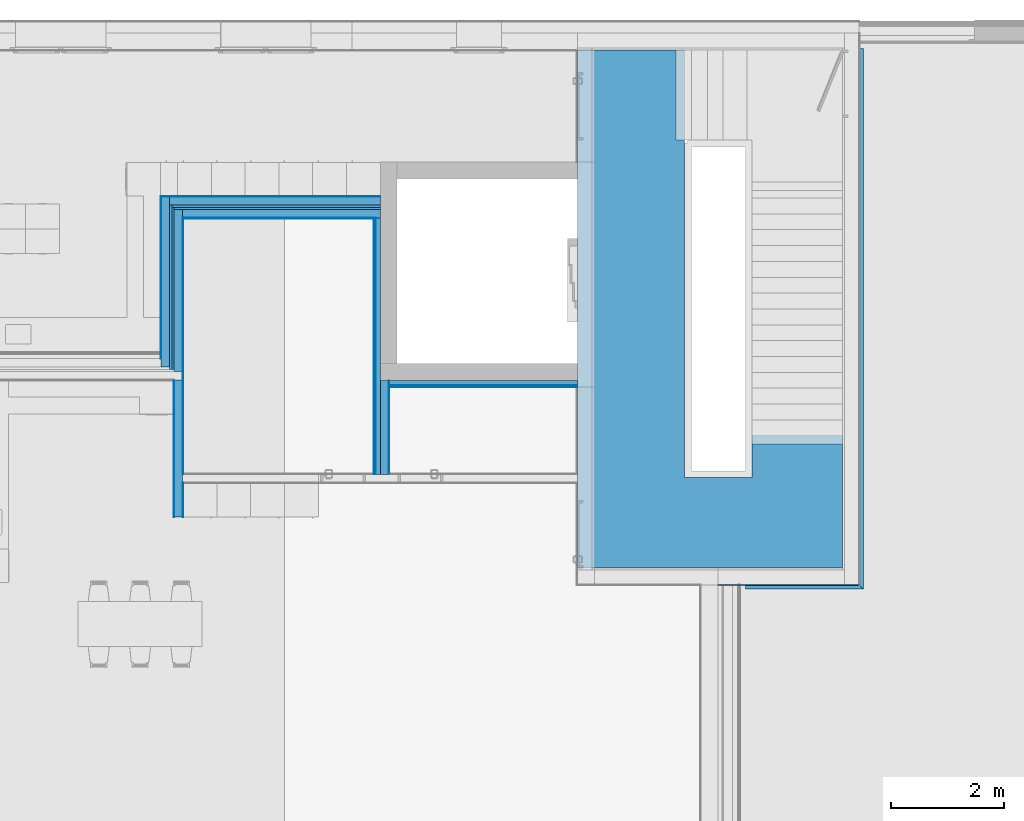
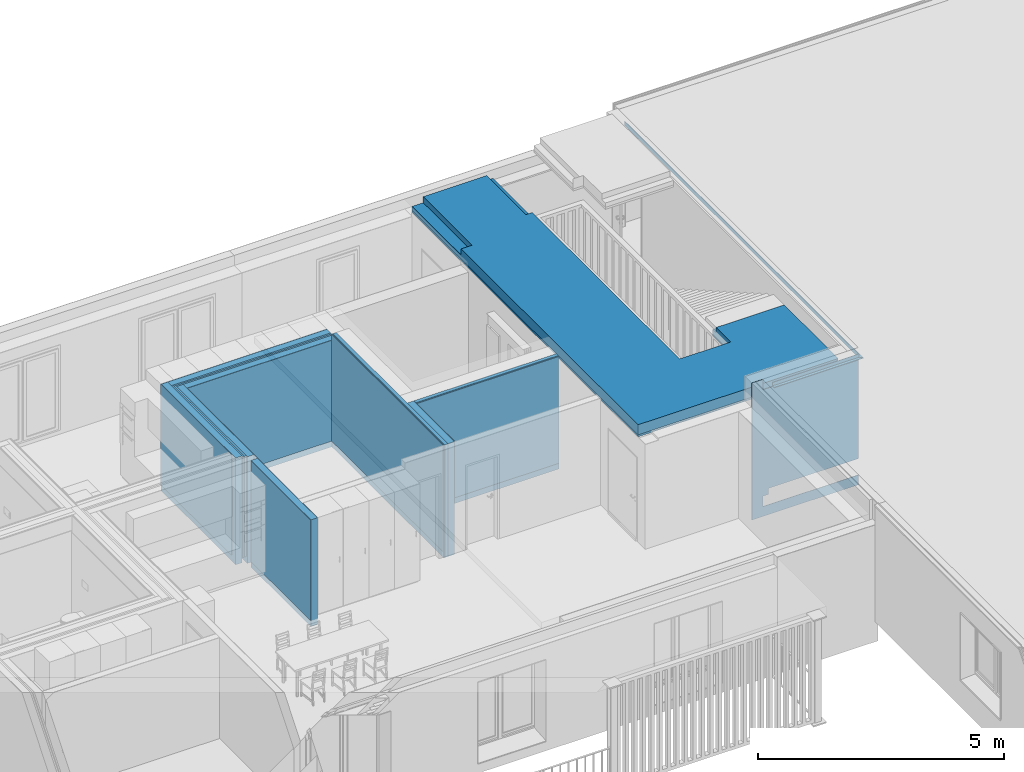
# One storey, part 14 of 34: 28 building element parts, 2 discrete accessories, 10 elements without a shape of their own.
"""IFC4 building model written with IfcOpenShell, lengths in millimetres."""

from ifc_helpers import new_model, entity, si_unit, converted_unit, derived_unit, direction, frame, origin_with_axes, place, context, subcontext, project, spatial, polygons, material, constituent, constituent_set, type_object, element, aggregate, save


model = new_model("IFC4")

# Units and contexts
model_context = context("Model", 3, precision=0.01, world=origin_with_axes(), true_north=direction((0.0, 1.0)))
body_context = subcontext(model_context, "Body", "Model", "MODEL_VIEW")
ifc_project = project(units=[si_unit("LENGTHUNIT", "METRE", prefix="MILLI"), si_unit("AREAUNIT", "SQUARE_METRE"), si_unit("VOLUMEUNIT", "CUBIC_METRE"), converted_unit("PLANEANGLEUNIT", "DEGREE", entity("IfcPlaneAngleMeasure", 0.0174532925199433), si_unit("PLANEANGLEUNIT", "RADIAN"), dimensions=[0, 0, 0, 0, 0, 0, 0]), converted_unit("TIMEUNIT", "Year", entity("IfcTimeMeasure", 31557600.0), si_unit("TIMEUNIT", "SECOND"), dimensions=[0, 0, 1, 0, 0, 0, 0]), si_unit("MASSUNIT", "GRAM", prefix="KILO"), si_unit("THERMODYNAMICTEMPERATUREUNIT", "DEGREE_CELSIUS"), si_unit("LUMINOUSINTENSITYUNIT", "LUMEN"), si_unit("ENERGYUNIT", "JOULE", prefix="MEGA"), derived_unit("THERMALCONDUCTANCEUNIT", [(si_unit("POWERUNIT", "WATT"), 1), (si_unit("LENGTHUNIT", "METRE"), -1), (si_unit("THERMODYNAMICTEMPERATUREUNIT", "KELVIN"), -1)]), derived_unit("SPECIFICHEATCAPACITYUNIT", [(si_unit("ENERGYUNIT", "JOULE"), 1), (si_unit("MASSUNIT", "GRAM", prefix="KILO"), -1), (si_unit("THERMODYNAMICTEMPERATUREUNIT", "KELVIN"), -1)]), derived_unit("MASSDENSITYUNIT", [(si_unit("MASSUNIT", "GRAM", prefix="KILO"), 1), (si_unit("VOLUMEUNIT", "CUBIC_METRE"), -1)])], contexts=[model_context])

# Site, building, storey
site_placement = place(None, origin_with_axes())
site = spatial("IfcSite", under=ifc_project, at=site_placement, Name="Gelände", CompositionType="ELEMENT")
building_placement = place(site_placement, origin_with_axes())
building = spatial("IfcBuilding", under=site, at=building_placement, Name="Gebäude", CompositionType="ELEMENT")
storey_placement = place(building_placement, frame((0.0, 0.0, 2900.0), z_axis=(0.0, 0.0, 1.0), x_axis=(1.0, 0.0, 0.0)))
storey = spatial("IfcBuildingStorey", under=building, at=storey_placement, Name="1.OG", CompositionType="ELEMENT", Elevation=2900.0)

# Discrete accessories
ifc_material_1 = material(Name="Stahl")
ifc_constituent_1 = constituent(ifc_material_1, Name="Stahl")
ifc_constituent_set_1 = constituent_set(constituents=[ifc_constituent_1], Name="Träger Typ 01- L90X75X9")
discrete_accessory_type = type_object("IfcDiscreteAccessoryType", Name="Träger Typ 01- L90X75X9 75 x 90", PredefinedType="NOTDEFINED")
discrete_accessory_1_placement = place(storey_placement, frame((20428.9974447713, 37468.59728131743, 3161.999948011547), z_axis=(0.0, 0.0, 1.0), x_axis=(-1.0, 0.0, 0.0)))
element("IfcDiscreteAccessory", 1, at=discrete_accessory_1_placement, inside=storey, type_object=discrete_accessory_type, material=ifc_constituent_set_1, Name="Unterzug-026", PredefinedType="NOTDEFINED", context=body_context, shape_type="Tessellation", body=[
    polygons([(0.0, 0.0, 81.0000000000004), (0.0, 9520.99999999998, 81.0000000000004), (-9.000000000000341, 9529.99999999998, 81.0000000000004), (-9.000000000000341, 0.0, 81.0000000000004), (0.0, 0.0, -9.000000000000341), (0.0, 9520.99999999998, -9.000000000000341), (-75.00000000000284, 9595.999999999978, -9.000000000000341), (-75.00000000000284, 9595.999999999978, 0.0), (-9.000000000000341, 9529.99999999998, 0.0), (-9.000000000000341, 0.0, 0.0), (-74.99999999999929, 0.0, 0.0), (-74.99999999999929, 0.0, -9.000000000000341)], [[[1, 2, 3, 4]], [[5, 6, 2, 1]], [[3, 2, 6, 7, 8, 9]], [[4, 3, 9, 10]], [[5, 1, 4, 10, 11, 12]], [[12, 7, 6, 5]], [[11, 8, 7, 12]], [[10, 9, 8, 11]]], closed=True),
])
ifc_constituent_2 = constituent(ifc_material_1, Name="Stahl")
ifc_constituent_set_2 = constituent_set(constituents=[ifc_constituent_2], Name="Träger Typ 01- L90X75X9")
discrete_accessory_2_placement = place(storey_placement, frame((18407.99744477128, 27947.59728131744, 3161.999948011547), z_axis=(0.0, 0.0, 1.0), x_axis=(0.0, -1.0, 0.0)))
element("IfcDiscreteAccessory", 2, at=discrete_accessory_2_placement, inside=storey, type_object=discrete_accessory_type, material=ifc_constituent_set_2, Name="Unterzug-026", PredefinedType="NOTDEFINED", context=body_context, shape_type="Tessellation", body=[
    polygons([(0.0, 0.0, -9.000000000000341), (0.0, 2020.99999999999, -9.000000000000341), (74.99999999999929, 2095.99999999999, -9.000000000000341), (74.99999999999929, 0.0, -9.000000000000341), (0.0, 0.0, 81.0000000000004), (0.0, 2020.99999999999, 81.0000000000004), (9.000000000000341, 2029.99999999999, 81.0000000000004), (9.000000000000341, 2029.99999999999, 0.0), (74.99999999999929, 2095.99999999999, 0.0), (74.99999999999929, 0.0, 0.0), (9.000000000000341, 0.0, 0.0), (9.000000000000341, 0.0, 81.0000000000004)], [[[1, 2, 3, 4]], [[5, 6, 2, 1]], [[3, 2, 6, 7, 8, 9]], [[4, 3, 9, 10]], [[5, 1, 4, 10, 11, 12]], [[12, 7, 6, 5]], [[11, 8, 7, 12]], [[10, 9, 8, 11]]], closed=True),
])

# Wall, building element part
wall_type_1 = type_object("IfcWallType", Name="Innenwand Typ 10 310", PredefinedType="NOTDEFINED")
wall_1_placement = place(storey_placement, frame((17919.99744477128, 28247.59728131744, 0.0), z_axis=(0.0, 0.0, 1.0), x_axis=(1.0, 0.0, 0.0)))
wall_1 = element("IfcWall", 3, at=wall_1_placement, inside=storey, type_object=wall_type_1, Name="Wand-014", PredefinedType="NOTDEFINED")
ifc_material_2 = material(Name="Kalkzementputz Aussen")
building_element_part_1_placement = place(wall_1_placement, origin_with_axes())
building_element_part_1 = element("IfcBuildingElementPart", 4, at=building_element_part_1_placement, material=ifc_material_2, Name="Kalkzementputz Aussen", PredefinedType="NOTDEFINED", context=body_context, shape_type="Tessellation", body=[
    polygons([(387.9999999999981, -300.0000000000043, 649.9999999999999), (387.9999999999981, -309.9999999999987, 649.9999999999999), (387.9999999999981, -309.9999999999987, 500.0), (387.9999999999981, -300.0000000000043, 500.0), (2508.999999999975, -300.0000000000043, 649.9999999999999), (2509.0, -309.9999999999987, 649.9999999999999), (257.9999999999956, -309.9999999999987, 499.9999999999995), (2509.0, -309.9999999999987, 3143.999948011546), (257.9999999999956, -309.9999999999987, 3143.999948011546), (257.9999999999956, -309.9999999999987, 3399.999948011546), (0.0, -309.9999999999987, 3399.999999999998), (0.0, -309.9999999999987, 0.0), (2509.0, -309.9999999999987, 0.0), (2509.0, -309.9999999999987, 243.9999999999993), (257.9999999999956, -309.9999999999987, 243.9999999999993), (257.9999999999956, -300.0000000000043, 499.9999999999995), (257.9999999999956, -300.0000000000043, 243.9999999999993), (2509.0, -300.0000000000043, 243.9999999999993), (2509.0, -300.0000000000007, 0.0), (0.0, -300.0000000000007, 0.0), (0.0, -300.0000000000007, 3399.999999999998), (257.9999999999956, -300.0000000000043, 3399.999948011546), (257.9999999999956, -300.0000000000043, 3143.999948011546), (2509.0, -300.0000000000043, 3143.999948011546)], [[[1, 2, 3, 4]], [[2, 1, 5, 6]], [[7, 3, 2, 6, 8, 9, 10, 11, 12, 13, 14, 15]], [[16, 4, 3, 7]], [[1, 4, 16, 17, 18, 19, 20, 21, 22, 23, 24, 5]], [[8, 6, 5, 24]], [[9, 8, 24, 23]], [[10, 9, 23, 22]], [[11, 10, 22, 21]], [[20, 12, 11, 21]], [[12, 20, 19, 13]], [[19, 18, 14, 13]], [[15, 14, 18, 17]], [[7, 15, 17, 16]]], closed=True),
])
aggregate(wall_1, [building_element_part_1])

# Plate, building element parts
plate_type = type_object("IfcPlateType", Name="Podest Typ 01 300", PredefinedType="NOTDEFINED")
plate_placement = place(storey_placement, frame((15428.99744477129, 37437.59728330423, 3050.0), z_axis=(0.0, 0.0, 1.0), x_axis=(1.0, 0.0, 0.0)))
plate = element("IfcPlate", 5, at=plate_placement, inside=storey, type_object=plate_type, Name="Deckennr.-073", PredefinedType="NOTDEFINED")
ifc_material_3 = material(Name="Beton bewehrt")
building_element_part_2_placement = place(plate_placement, origin_with_axes())
building_element_part_2 = element("IfcBuildingElementPart", 6, at=building_element_part_2_placement, material=ifc_material_3, Name="Beton bewehrt", PredefinedType="NOTDEFINED", context=body_context, shape_type="Tessellation", body=[
    polygons([(1750.644133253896, 0.0, 0.0), (1750.644133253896, 0.0, -120.000000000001), (1899.999999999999, 0.0, -120.000000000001), (1899.999999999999, 0.0, -250.0), (0.0, 0.0, -250.0), (0.0, 0.0, -150.0000000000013), (259.9999999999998, 0.0, -150.0000000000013), (259.999999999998, 0.0, 0.0), (1750.644133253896, -1597.3185331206, 0.0), (1750.644133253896, -1597.3185331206, -120.000000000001), (1899.999999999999, -1597.3185331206, -120.000000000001), (1899.999999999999, -1597.3185331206, 0.0), (1899.999999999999, -7590.000001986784, 0.0), (1899.999999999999, -7590.000001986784, -250.0), (4699.999992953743, -6845.000001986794, -250.0), (4699.999992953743, -9190.000001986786, -250.0), (0.0, -9190.000001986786, -250.0), (3099.999992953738, -7590.000001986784, -250.0), (3099.999992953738, -6845.000001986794, -250.0), (0.0, -9190.000001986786, 0.0), (0.0, -1990.0000019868, 0.0), (0.0, -1990.0000019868, -150.0000000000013), (259.999999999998, -1990.0000019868, -150.0000000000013), (259.999999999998, -1990.0000019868, 0.0), (4699.999992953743, -9190.000001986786, 0.0), (4699.999992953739, -6995.000001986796, 0.0), (3099.999992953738, -6995.000001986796, 0.0), (3099.999992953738, -7590.000001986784, 0.0), (4699.999992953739, -6845.000001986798, -140.0000000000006), (4699.999992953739, -6995.000001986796, -140.0000000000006), (3099.999992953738, -6995.000001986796, -140.0000000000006), (3099.999992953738, -6845.000001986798, -140.0000000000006)], [[[1, 2, 3, 4, 5, 6, 7, 8]], [[2, 1, 9, 10]], [[11, 3, 2, 10]], [[11, 12, 13, 14, 4, 3]], [[15, 16, 17, 5, 4, 14, 18, 19]], [[20, 21, 22, 6, 5, 17]], [[22, 23, 7, 6]], [[7, 23, 24, 8]], [[9, 1, 8, 24, 21, 20, 25, 26, 27, 28, 13, 12]], [[9, 12, 11, 10]], [[13, 28, 18, 14]], [[29, 30, 26, 25, 16, 15]], [[25, 20, 17, 16]], [[27, 31, 32, 19, 18, 28]], [[19, 32, 29, 15]], [[23, 22, 21, 24]], [[31, 27, 26, 30]], [[31, 30, 29, 32]]], closed=True),
])
ifc_material_4 = material(Name="Sichtbeton")
building_element_part_3_placement = place(plate_placement, origin_with_axes())
building_element_part_3 = element("IfcBuildingElementPart", 7, at=building_element_part_3_placement, material=ifc_material_4, Name="Sichtbeton", PredefinedType="NOTDEFINED", context=body_context, shape_type="Tessellation", body=[
    polygons([(0.0, 0.0, -250.0), (0.0, 0.0, -299.9999999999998), (0.0, -9190.000001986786, -299.9999999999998), (0.0, -9190.000001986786, -250.0), (1899.999999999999, 0.0, -250.0), (1899.999999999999, 0.0, -299.9999999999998), (1899.999999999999, -7590.000001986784, -299.9999999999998), (3099.999992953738, -7590.000001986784, -299.9999999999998), (3099.999992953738, -6845.000001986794, -299.9999999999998), (4699.999992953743, -6845.000001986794, -299.9999999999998), (4699.999992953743, -9190.000001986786, -299.9999999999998), (4699.999992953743, -9190.000001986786, -250.0), (4699.999992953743, -6845.000001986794, -250.0), (3099.999992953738, -6845.000001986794, -250.0), (3099.999992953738, -7590.000001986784, -250.0), (1899.999999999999, -7590.000001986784, -250.0)], [[[1, 2, 3, 4]], [[5, 6, 2, 1]], [[3, 2, 6, 7, 8, 9, 10, 11]], [[4, 3, 11, 12]], [[5, 1, 4, 12, 13, 14, 15, 16]], [[16, 7, 6, 5]], [[15, 8, 7, 16]], [[14, 9, 8, 15]], [[13, 10, 9, 14]], [[12, 11, 10, 13]]], closed=True),
])
aggregate(plate, [building_element_part_2, building_element_part_3])

# Wall, building element parts
wall_type_2 = type_object("IfcWallType", Name="Trennwand Typ 03 - verputzt 200", PredefinedType="NOTDEFINED")
wall_2_placement = place(storey_placement, frame((8038.997444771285, 34837.59728131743, 0.0), z_axis=(0.0, 0.0, 1.0), x_axis=(0.0, -1.0, 0.0)))
wall_2 = element("IfcWall", 8, at=wall_2_placement, inside=storey, type_object=wall_type_2, Name="Wand-014", PredefinedType="NOTDEFINED")
ifc_material_5 = material(Name="Dämmung Innen")
building_element_part_4_placement = place(wall_2_placement, origin_with_axes())
building_element_part_4 = element("IfcBuildingElementPart", 9, at=building_element_part_4_placement, material=ifc_material_5, Name="Dämmung Innen", PredefinedType="NOTDEFINED", context=body_context, shape_type="Tessellation", body=[
    polygons([(3064.999999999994, 189.9999999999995, 149.9999999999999), (149.9999999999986, 189.9999999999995, 149.9999999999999), (149.9999999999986, 189.9999999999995, 2649.999948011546), (3064.999999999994, 189.9999999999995, 2649.999948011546), (149.9999999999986, 150.0000000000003, 149.9999999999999), (3064.999999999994, 150.0000000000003, 149.9999999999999), (149.9999999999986, 150.0000000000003, 2649.999948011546), (3064.999999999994, 150.0000000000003, 2649.999948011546)], [[[1, 2, 3, 4]], [[5, 2, 1, 6]], [[2, 5, 7, 3]], [[8, 4, 3, 7]], [[6, 1, 4, 8]], [[5, 6, 8, 7]]], closed=True),
])
ifc_material_6 = material(Name="MW, Backstein")
building_element_part_5_placement = place(wall_2_placement, origin_with_axes())
building_element_part_5 = element("IfcBuildingElementPart", 10, at=building_element_part_5_placement, material=ifc_material_6, Name="MW, Backstein", PredefinedType="NOTDEFINED", context=body_context, shape_type="Tessellation", body=[
    polygons([(3024.999999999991, 0.0, 0.0), (0.0, 0.0, 0.0), (0.0, 150.0000000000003, 0.0), (3024.999999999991, 150.0000000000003, 0.0), (3024.999999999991, 0.0, 2649.999948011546), (0.0, 0.0, 2649.999948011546), (0.0, 150.0000000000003, 2649.999948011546), (3024.999999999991, 150.0000000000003, 2649.999948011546)], [[[1, 2, 3, 4]], [[5, 6, 2, 1]], [[3, 2, 6, 7]], [[4, 3, 7, 8]], [[4, 8, 5, 1]], [[8, 7, 6, 5]]], closed=True),
])
building_element_part_6_placement = place(wall_2_placement, origin_with_axes())
building_element_part_6 = element("IfcBuildingElementPart", 11, at=building_element_part_6_placement, material=ifc_material_2, Name="Kalkzementputz Aussen", PredefinedType="NOTDEFINED", context=body_context, shape_type="Tessellation", body=[
    polygons([(2874.999999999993, 0.0, 149.9999999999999), (-9.99999999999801, 0.0, 149.9999999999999), (-9.99999999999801, 0.0, 2649.999948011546), (2874.999999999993, 0.0, 2649.999948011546), (-9.99999999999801, -9.999999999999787, 149.9999999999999), (2874.999999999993, -9.999999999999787, 149.9999999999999), (-9.99999999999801, -9.999999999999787, 2649.999948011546), (2874.999999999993, -9.999999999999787, 2649.999948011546)], [[[1, 2, 3, 4]], [[5, 2, 1, 6]], [[2, 5, 7, 3]], [[8, 4, 3, 7]], [[6, 1, 4, 8]], [[5, 6, 8, 7]]], closed=True),
])
aggregate(wall_2, [building_element_part_4, building_element_part_5, building_element_part_6])

wall_3_placement = place(storey_placement, frame((11928.99744477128, 34837.59728131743, 0.0), z_axis=(0.0, 0.0, 1.0), x_axis=(-1.0, 0.0, 0.0)))
wall_3 = element("IfcWall", 12, at=wall_3_placement, inside=storey, type_object=wall_type_2, Name="Wand-014", PredefinedType="NOTDEFINED")
building_element_part_7_placement = place(wall_3_placement, origin_with_axes())
building_element_part_7 = element("IfcBuildingElementPart", 13, at=building_element_part_7_placement, material=ifc_material_5, Name="Dämmung Innen", PredefinedType="NOTDEFINED", context=body_context, shape_type="Tessellation", body=[
    polygons([(0.0, 189.9999999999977, 149.9999999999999), (0.0, 149.9999999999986, 149.9999999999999), (0.0, 149.9999999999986, 2649.999948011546), (0.0, 189.9999999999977, 2649.999948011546), (3700.000000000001, 149.9999999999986, 149.9999999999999), (3700.000000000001, 189.9999999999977, 149.9999999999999), (3700.000000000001, 149.9999999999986, 2649.999948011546), (3700.000000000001, 189.9999999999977, 2649.999948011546)], [[[1, 2, 3, 4]], [[5, 2, 1, 6]], [[2, 5, 7, 3]], [[7, 8, 4, 3]], [[6, 1, 4, 8]], [[5, 6, 8, 7]]], closed=True),
])
building_element_part_8_placement = place(wall_3_placement, origin_with_axes())
building_element_part_8 = element("IfcBuildingElementPart", 14, at=building_element_part_8_placement, material=ifc_material_2, Name="Kalkzementputz Aussen", PredefinedType="NOTDEFINED", context=body_context, shape_type="Tessellation", body=[
    polygons([(0.0, 0.0, 149.9999999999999), (0.0, -9.99999999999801, 149.9999999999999), (0.0, -9.99999999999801, 2649.999948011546), (0.0, 0.0, 2649.999948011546), (3890.0, -9.99999999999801, 149.9999999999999), (3890.0, 0.0, 149.9999999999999), (3890.0, -9.99999999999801, 2649.999948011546), (3890.0, 0.0, 2649.999948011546)], [[[1, 2, 3, 4]], [[5, 2, 1, 6]], [[2, 5, 7, 3]], [[7, 8, 4, 3]], [[6, 1, 4, 8]], [[5, 6, 8, 7]]], closed=True),
])
building_element_part_9_placement = place(wall_3_placement, origin_with_axes())
building_element_part_9 = element("IfcBuildingElementPart", 15, at=building_element_part_9_placement, material=ifc_material_6, Name="MW, Backstein", PredefinedType="NOTDEFINED", context=body_context, shape_type="Tessellation", body=[
    polygons([(3740.0, 0.0, 0.0), (0.0, 0.0, 0.0), (0.0, 149.9999999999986, 0.0), (3740.0, 149.9999999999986, 0.0), (3740.0, 0.0, 2649.999948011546), (0.0, 0.0, 2649.999948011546), (0.0, 149.9999999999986, 2649.999948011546), (3740.0, 149.9999999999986, 2649.999948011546)], [[[1, 2, 3, 4]], [[5, 6, 2, 1]], [[3, 2, 6, 7]], [[4, 3, 7, 8]], [[4, 8, 5, 1]], [[8, 7, 6, 5]]], closed=True),
])
aggregate(wall_3, [building_element_part_7, building_element_part_8, building_element_part_9])

wall_type_3 = type_object("IfcWallType", Name="Vorsatzschale 01 115", PredefinedType="NOTDEFINED")
wall_4_placement = place(storey_placement, frame((11813.99744477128, 34457.59728131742, 0.0), z_axis=(0.0, 0.0, 1.0), x_axis=(0.0, -1.0, 0.0)))
wall_4 = element("IfcWall", 16, at=wall_4_placement, inside=storey, type_object=wall_type_3, Name="Wand-014", PredefinedType="NOTDEFINED")
ifc_material_7 = material(Name="Gipskartonplatte GKP")
building_element_part_10_placement = place(wall_4_placement, origin_with_axes())
building_element_part_10 = element("IfcBuildingElementPart", 17, at=building_element_part_10_placement, material=ifc_material_7, Name="Gipskartonplatte GKP", PredefinedType="NOTDEFINED", context=body_context, shape_type="Tessellation", body=[
    polygons([(4549.999999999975, 35.00000000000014, 0.0), (0.0, 35.00000000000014, 0.0), (0.0, 35.00000095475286, 2800.0), (4549.999999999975, 35.00000005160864, 2800.0), (4549.999999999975, 22.49999999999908, 0.0), (0.0, 22.50000000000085, 0.0), (0.0, 22.50000000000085, 2800.0), (4549.999999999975, 22.49999999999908, 2800.0)], [[[1, 2, 3, 4]], [[5, 6, 2, 1]], [[3, 2, 6, 7]], [[8, 4, 3, 7]], [[5, 1, 4, 8]], [[7, 6, 5, 8]]], closed=True),
])
ifc_material_8 = material(Name="Ständer Konstruktion gedämmt")
building_element_part_11_placement = place(wall_4_placement, origin_with_axes())
building_element_part_11 = element("IfcBuildingElementPart", 18, at=building_element_part_11_placement, material=ifc_material_8, Name="Ständer Konstruktion gedämmt", PredefinedType="NOTDEFINED", context=body_context, shape_type="Tessellation", body=[
    polygons([(4549.999999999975, 115.0000000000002, 0.0), (0.0, 115.0000000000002, 0.0), (0.0, 114.9999996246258, 2649.999948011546), (0.0, 114.9999996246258, 2800.0), (4549.999999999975, 114.9999999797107, 2800.0), (4549.999999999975, 35.00000000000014, 0.0), (0.0, 35.00000000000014, 0.0), (0.0, 35.00000095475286, 2800.0), (4549.999999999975, 35.00000005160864, 2800.0)], [[[1, 2, 3, 4, 5]], [[6, 7, 2, 1]], [[4, 3, 2, 7, 8]], [[9, 5, 4, 8]], [[6, 1, 5, 9]], [[8, 7, 6, 9]]], closed=True),
])
building_element_part_12_placement = place(wall_4_placement, origin_with_axes())
building_element_part_12 = element("IfcBuildingElementPart", 19, at=building_element_part_12_placement, material=ifc_material_7, Name="Gipskartonplatte GKP", PredefinedType="NOTDEFINED", context=body_context, shape_type="Tessellation", body=[
    polygons([(4549.999999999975, 22.49999999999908, 0.0), (0.0, 22.50000000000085, 0.0), (0.0, 22.50000000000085, 2800.0), (4549.999999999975, 22.49999999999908, 2800.0), (4549.999999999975, 9.999999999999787, 0.0), (0.0, 9.999999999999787, 0.0), (0.0, 9.999998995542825, 2800.0), (4549.999999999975, 9.99999994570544, 2800.0)], [[[1, 2, 3, 4]], [[5, 6, 2, 1]], [[3, 2, 6, 7]], [[8, 4, 3, 7]], [[5, 1, 4, 8]], [[7, 6, 5, 8]]], closed=True),
])
building_element_part_13_placement = place(wall_4_placement, origin_with_axes())
building_element_part_13 = element("IfcBuildingElementPart", 20, at=building_element_part_13_placement, material=ifc_material_2, Name="Kalkzementputz Aussen", PredefinedType="NOTDEFINED", context=body_context, shape_type="Tessellation", body=[
    polygons([(4539.999999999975, 9.999999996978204, 149.9999999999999), (9.99999999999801, 9.999999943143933, 149.9999999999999), (9.99999999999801, 9.999998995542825, 2649.999948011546), (0.0, 9.999998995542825, 2649.999948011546), (0.0, 9.999998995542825, 2800.0), (4539.999999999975, 9.999999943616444, 2800.0), (4539.999999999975, 0.0, 149.9999999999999), (9.99999999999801, 0.0, 149.9999999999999), (9.99999999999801, 0.0, 2649.999948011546), (0.0, 0.0, 2649.999948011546), (0.0, 0.0, 2800.0), (4539.999999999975, 0.0, 2800.0)], [[[1, 2, 3, 4, 5, 6]], [[2, 1, 7, 8]], [[2, 8, 9, 3]], [[9, 10, 4, 3]], [[5, 4, 10, 11]], [[12, 6, 5, 11]], [[7, 1, 6, 12]], [[7, 12, 11, 10, 9, 8]]], closed=True),
])
aggregate(wall_4, [building_element_part_10, building_element_part_11, building_element_part_12, building_element_part_13])

wall_5_placement = place(storey_placement, frame((8418.997444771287, 31582.59728131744, 0.0), z_axis=(0.0, 0.0, 1.0), x_axis=(0.0, 1.0, 0.0)))
wall_5 = element("IfcWall", 21, at=wall_5_placement, inside=storey, type_object=wall_type_2, Name="Wand-016", PredefinedType="NOTDEFINED")
building_element_part_14_placement = place(wall_5_placement, origin_with_axes())
building_element_part_14 = element("IfcBuildingElementPart", 22, at=building_element_part_14_placement, material=ifc_material_6, Name="MW, Backstein", PredefinedType="NOTDEFINED", context=body_context, shape_type="Tessellation", body=[
    polygons([(3024.999999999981, 0.0, 0.0), (149.9999999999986, 0.0, 0.0), (149.9999999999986, 150.0000000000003, 0.0), (3024.999999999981, 150.0000000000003, 0.0), (3024.999999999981, 0.0, 2649.999948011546), (149.9999999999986, 0.0, 2649.999948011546), (149.9999999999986, 150.0000000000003, 2649.999948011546), (3024.999999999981, 150.0000000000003, 2649.999948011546)], [[[1, 2, 3, 4]], [[5, 6, 2, 1]], [[3, 2, 6, 7]], [[4, 3, 7, 8]], [[4, 8, 5, 1]], [[8, 7, 6, 5]]], closed=True),
])
building_element_part_15_placement = place(wall_5_placement, origin_with_axes())
building_element_part_15 = element("IfcBuildingElementPart", 23, at=building_element_part_15_placement, material=ifc_material_2, Name="Kalkzementputz Aussen", PredefinedType="NOTDEFINED", context=body_context, shape_type="Tessellation", body=[
    polygons([(0.0, -9.999999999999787, 149.9999999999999), (2874.999999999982, -9.999999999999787, 149.9999999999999), (2874.999999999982, -9.999999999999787, 2649.999948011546), (0.0, -9.999999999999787, 2649.999948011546), (2874.999999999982, 0.0, 149.9999999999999), (0.0, 0.0, 149.9999999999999), (2874.999999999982, 0.0, 2649.999948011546), (0.0, 0.0, 2649.999948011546)], [[[1, 2, 3, 4]], [[5, 2, 1, 6]], [[2, 5, 7, 3]], [[4, 3, 7, 8]], [[6, 1, 4, 8]], [[5, 6, 8, 7]]], closed=True),
])

wall_6_placement = place(storey_placement, frame((8418.997444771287, 34457.59728131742, 0.0), z_axis=(0.0, 0.0, 1.0), x_axis=(1.0, 0.0, 0.0)))
wall_6 = element("IfcWall", 24, at=wall_6_placement, inside=storey, type_object=wall_type_2, Name="Wand-017", PredefinedType="NOTDEFINED")
building_element_part_16_placement = place(wall_6_placement, origin_with_axes())
building_element_part_16 = element("IfcBuildingElementPart", 25, at=building_element_part_16_placement, material=ifc_material_5, Name="Dämmung Innen", PredefinedType="NOTDEFINED", context=body_context, shape_type="Tessellation", body=[
    polygons([(3509.999999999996, 149.9999999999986, 149.9999999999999), (3509.999999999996, 189.9999999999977, 149.9999999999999), (3509.999999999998, 189.9999999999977, 2649.999948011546), (3509.999999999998, 149.9999999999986, 2649.999948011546), (-150.0000000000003, 189.9999999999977, 149.9999999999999), (-150.0000000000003, 149.9999999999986, 149.9999999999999), (-150.0000000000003, 189.9999999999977, 2649.999948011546), (-150.0000000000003, 149.9999999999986, 2649.999948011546)], [[[1, 2, 3, 4]], [[5, 2, 1, 6]], [[2, 5, 7, 3]], [[4, 3, 7, 8]], [[6, 1, 4, 8]], [[5, 6, 8, 7]]], closed=True),
])
building_element_part_17_placement = place(wall_6_placement, origin_with_axes())
building_element_part_17 = element("IfcBuildingElementPart", 26, at=building_element_part_17_placement, material=ifc_material_6, Name="MW, Backstein", PredefinedType="NOTDEFINED", context=body_context, shape_type="Tessellation", body=[
    polygons([(3509.999999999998, 0.0, 0.0), (0.0, 0.0, 0.0), (0.0, 149.9999999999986, 0.0), (3509.999999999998, 149.9999999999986, 0.0), (3509.999999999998, 0.0, 2649.999948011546), (0.0, 0.0, 2649.999948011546), (0.0, 149.9999999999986, 2649.999948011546), (3509.999999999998, 149.9999999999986, 2649.999948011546)], [[[1, 2, 3, 4]], [[5, 6, 2, 1]], [[3, 2, 6, 7]], [[4, 3, 7, 8]], [[4, 8, 5, 1]], [[8, 7, 6, 5]]], closed=True),
])

wall_type_4 = type_object("IfcWallType", Name="Innenwand Typ 03 160", PredefinedType="NOTDEFINED")
wall_7_placement = place(storey_placement, frame((11928.99744477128, 31572.59728131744, 0.0), z_axis=(0.0, 0.0, 1.0), x_axis=(0.0, -1.0, 0.0)))
wall_7 = element("IfcWall", 27, at=wall_7_placement, inside=storey, type_object=wall_type_4, Name="Wand-014", PredefinedType="NOTDEFINED")
building_element_part_18_placement = place(wall_7_placement, origin_with_axes())
building_element_part_18 = element("IfcBuildingElementPart", 28, at=building_element_part_18_placement, material=ifc_material_2, Name="Kalkzementputz Aussen", PredefinedType="NOTDEFINED", context=body_context, shape_type="Tessellation", body=[
    polygons([(1654.999999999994, 160.0000000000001, 149.9999999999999), (0.0, 160.0000000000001, 149.9999999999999), (0.0, 160.0000000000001, 2799.999948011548), (1654.999999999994, 160.0000000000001, 2800.0), (0.0, 150.0000000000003, 149.9999999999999), (1654.999999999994, 150.0000000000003, 149.9999999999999), (0.0, 150.0000000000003, 2799.999948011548), (1654.999999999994, 150.0000000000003, 2800.0)], [[[1, 2, 3, 4]], [[5, 2, 1, 6]], [[2, 5, 7, 3]], [[4, 3, 7, 8]], [[6, 1, 4, 8]], [[5, 6, 8, 7]]], closed=True),
])
building_element_part_19_placement = place(wall_7_placement, origin_with_axes())
building_element_part_19 = element("IfcBuildingElementPart", 29, at=building_element_part_19_placement, material=ifc_material_6, Name="MW, Backstein", PredefinedType="NOTDEFINED", context=body_context, shape_type="Tessellation", body=[
    polygons([(0.0, 150.0000000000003, 0.0), (0.0, 150.0000000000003, 2799.999948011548), (1664.999999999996, 150.0000000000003, 2800.0), (1664.999999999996, 150.0000000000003, 0.0), (0.0, 0.0, 2799.999948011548), (0.0, 0.0, 0.0), (1664.999999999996, 0.0, 2800.0), (1664.999999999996, 0.0, 0.0)], [[[1, 2, 3, 4]], [[5, 2, 1, 6]], [[2, 5, 7, 3]], [[7, 8, 4, 3]], [[6, 1, 4, 8]], [[5, 6, 8, 7]]], closed=True),
])
aggregate(wall_7, [building_element_part_18, building_element_part_19])

# Building element part
building_element_part_20_placement = place(wall_6_placement, origin_with_axes())
building_element_part_20 = element("IfcBuildingElementPart", 30, at=building_element_part_20_placement, material=ifc_material_2, Name="Kalkzementputz Aussen", PredefinedType="NOTDEFINED", context=body_context, shape_type="Tessellation", body=[
    polygons([(3404.999999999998, -9.99999999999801, 149.9999999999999), (3404.999999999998, 0.0, 149.9999999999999), (3404.999999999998, 0.0, 2649.999948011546), (3404.999999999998, -9.99999999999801, 2649.999948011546), (9.999999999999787, 0.0, 149.9999999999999), (9.999999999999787, -9.99999999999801, 149.9999999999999), (9.999999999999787, 0.0, 2649.999948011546), (9.999999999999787, -9.99999999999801, 2649.999948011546)], [[[1, 2, 3, 4]], [[5, 2, 1, 6]], [[2, 5, 7, 3]], [[4, 3, 7, 8]], [[6, 1, 4, 8]], [[5, 6, 8, 7]]], closed=True),
])

aggregate(wall_6, [building_element_part_16, building_element_part_17, building_element_part_20])

# Wall, building element parts
wall_type_5 = type_object("IfcWallType", Name="Innenwand Typ 05 170", PredefinedType="NOTDEFINED")
wall_8_placement = place(storey_placement, frame((8418.997444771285, 31582.59728131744, 0.0), z_axis=(0.0, 0.0, 1.0), x_axis=(0.0, -1.0, 0.0)))
wall_8 = element("IfcWall", 31, at=wall_8_placement, inside=storey, type_object=wall_type_5, Name="Wand-014", PredefinedType="NOTDEFINED")
building_element_part_21_placement = place(wall_8_placement, origin_with_axes())
building_element_part_21 = element("IfcBuildingElementPart", 32, at=building_element_part_21_placement, material=ifc_material_6, Name="MW, Backstein", PredefinedType="NOTDEFINED", context=body_context, shape_type="Tessellation", body=[
    polygons([(0.0, 0.0, 0.0), (0.0, 0.0, 2649.999948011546), (2432.999999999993, 0.0, 2649.999948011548), (2432.999999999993, 0.0, 0.0), (0.0, -149.9999999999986, 2649.999948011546), (0.0, -149.9999999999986, 0.0), (2432.999999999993, -150.0000000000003, 2649.999948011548), (2432.999999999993, -150.0000000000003, 0.0)], [[[1, 2, 3, 4]], [[5, 2, 1, 6]], [[2, 5, 7, 3]], [[4, 3, 7, 8]], [[6, 1, 4, 8]], [[5, 6, 8, 7]]], closed=True),
])
building_element_part_22_placement = place(wall_8_placement, origin_with_axes())
building_element_part_22 = element("IfcBuildingElementPart", 33, at=building_element_part_22_placement, material=ifc_material_2, Name="Kalkzementputz Aussen", PredefinedType="NOTDEFINED", context=body_context, shape_type="Tessellation", body=[
    polygons([(2432.999999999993, -150.0000000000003, 149.9999999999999), (9.99999999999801, -149.9999999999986, 149.9999999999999), (9.99999999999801, -149.9999999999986, 2649.999948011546), (2432.999999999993, -150.0000000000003, 2649.999948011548), (9.99999999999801, -160.0000000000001, 149.9999999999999), (2432.999999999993, -160.0000000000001, 149.9999999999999), (9.99999999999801, -160.0000000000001, 2649.999948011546), (2432.999999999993, -160.0000000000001, 2649.999948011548)], [[[1, 2, 3, 4]], [[5, 2, 1, 6]], [[2, 5, 7, 3]], [[4, 3, 7, 8]], [[6, 1, 4, 8]], [[5, 6, 8, 7]]], closed=True),
])
building_element_part_23_placement = place(wall_8_placement, origin_with_axes())
building_element_part_23 = element("IfcBuildingElementPart", 34, at=building_element_part_23_placement, material=ifc_material_2, Name="Kalkzementputz Aussen", PredefinedType="NOTDEFINED", context=body_context, shape_type="Tessellation", body=[
    polygons([(1674.999999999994, 9.999999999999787, 149.9999999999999), (9.99999999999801, 10.00000000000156, 149.9999999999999), (9.99999999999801, 10.00000000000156, 2649.999948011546), (1674.999999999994, 9.999999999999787, 2649.999948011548), (9.99999999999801, 0.0, 149.9999999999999), (1674.999999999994, 0.0, 149.9999999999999), (9.99999999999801, 0.0, 2649.999948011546), (1674.999999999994, 0.0, 2649.999948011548)], [[[1, 2, 3, 4]], [[5, 2, 1, 6]], [[2, 5, 7, 3]], [[4, 3, 7, 8]], [[6, 1, 4, 8]], [[5, 6, 8, 7]]], closed=True),
    polygons([(2432.999999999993, 9.999999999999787, 149.9999999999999), (1824.999999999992, 9.999999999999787, 149.9999999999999), (1824.999999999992, 9.999999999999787, 2649.999948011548), (2432.999999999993, 9.999999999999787, 2649.999948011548), (1824.999999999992, 0.0, 149.9999999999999), (2432.999999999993, 0.0, 149.9999999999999), (1824.999999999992, 0.0, 2649.999948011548), (2432.999999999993, 0.0, 2649.999948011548)], [[[1, 2, 3, 4]], [[5, 2, 1, 6]], [[2, 5, 7, 3]], [[3, 7, 8, 4]], [[6, 1, 4, 8]], [[5, 6, 8, 7]]], closed=True),
])
aggregate(wall_8, [building_element_part_21, building_element_part_22, building_element_part_23])

wall_9_placement = place(storey_placement, frame((12078.99744477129, 31457.59728131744, 0.0), z_axis=(0.0, 0.0, 1.0), x_axis=(1.0, 0.0, 0.0)))
wall_9 = element("IfcWall", 35, at=wall_9_placement, inside=storey, type_object=wall_type_3, Name="Wand-014", PredefinedType="NOTDEFINED")
building_element_part_24_placement = place(wall_9_placement, origin_with_axes())
building_element_part_24 = element("IfcBuildingElementPart", 36, at=building_element_part_24_placement, material=ifc_material_8, Name="Ständer Konstruktion gedämmt", PredefinedType="NOTDEFINED", context=body_context, shape_type="Tessellation", body=[
    polygons([(3349.999999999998, 115.000000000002, 0.0), (3349.999999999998, 35.00000000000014, 0.0), (0.0, 35.00000000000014, 0.0), (0.0, 114.9999999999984, 0.0), (3349.999999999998, 115.000000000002, 2800.0), (3349.999999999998, 35.00000000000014, 2800.0), (0.0, 35.00000000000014, 2800.0), (0.0, 114.9999999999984, 2800.0)], [[[1, 2, 3, 4]], [[1, 5, 6, 2]], [[2, 6, 7, 3]], [[4, 3, 7, 8]], [[5, 1, 4, 8]], [[6, 5, 8, 7]]], closed=True),
])
building_element_part_25_placement = place(wall_9_placement, origin_with_axes())
building_element_part_25 = element("IfcBuildingElementPart", 37, at=building_element_part_25_placement, material=ifc_material_7, Name="Gipskartonplatte GKP", PredefinedType="NOTDEFINED", context=body_context, shape_type="Tessellation", body=[
    polygons([(3349.999999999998, 35.00000000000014, 0.0), (3349.999999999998, 22.50000000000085, 0.0), (0.0, 22.50000000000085, 0.0), (0.0, 35.00000000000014, 0.0), (3349.999999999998, 35.00000000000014, 2800.0), (3349.999999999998, 22.50000000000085, 2800.0), (0.0, 22.50000000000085, 2800.0), (0.0, 35.00000000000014, 2800.0)], [[[1, 2, 3, 4]], [[1, 5, 6, 2]], [[2, 6, 7, 3]], [[4, 3, 7, 8]], [[5, 1, 4, 8]], [[6, 5, 8, 7]]], closed=True),
])
building_element_part_26_placement = place(wall_9_placement, origin_with_axes())
building_element_part_26 = element("IfcBuildingElementPart", 38, at=building_element_part_26_placement, material=ifc_material_2, Name="Kalkzementputz Aussen", PredefinedType="NOTDEFINED", context=body_context, shape_type="Tessellation", body=[
    polygons([(3349.999999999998, 0.0, 149.9999999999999), (3349.999999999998, 10.00000000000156, 149.9999999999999), (3349.999999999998, 10.00000000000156, 2800.0), (3349.999999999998, 0.0, 2800.0), (0.0, 10.00000000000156, 149.9999999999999), (0.0, 0.0, 149.9999999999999), (0.0, 10.00000000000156, 2800.0), (0.0, 0.0, 2800.0)], [[[1, 2, 3, 4]], [[5, 2, 1, 6]], [[2, 5, 7, 3]], [[8, 4, 3, 7]], [[6, 1, 4, 8]], [[5, 6, 8, 7]]], closed=True),
])

# Building element part
building_element_part_27_placement = place(wall_5_placement, origin_with_axes())
building_element_part_27 = element("IfcBuildingElementPart", 39, at=building_element_part_27_placement, material=ifc_material_5, Name="Dämmung Innen", PredefinedType="NOTDEFINED", context=body_context, shape_type="Tessellation", body=[
    polygons([(190.0000000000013, 150.0000000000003, 149.9999999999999), (3064.99999999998, 150.0000000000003, 149.9999999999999), (3064.99999999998, 150.0000000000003, 2649.999948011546), (190.0000000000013, 150.0000000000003, 2649.999948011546), (3064.99999999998, 189.9999999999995, 149.9999999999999), (190.0000000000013, 189.9999999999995, 149.9999999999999), (3064.99999999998, 189.9999999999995, 2649.999948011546), (190.0000000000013, 189.9999999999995, 2649.999948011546)], [[[1, 2, 3, 4]], [[5, 2, 1, 6]], [[2, 5, 7, 3]], [[3, 7, 8, 4]], [[6, 1, 4, 8]], [[5, 6, 8, 7]]], closed=True),
])

aggregate(wall_5, [building_element_part_14, building_element_part_15, building_element_part_27])

building_element_part_28_placement = place(wall_9_placement, origin_with_axes())
building_element_part_28 = element("IfcBuildingElementPart", 40, at=building_element_part_28_placement, material=ifc_material_7, Name="Gipskartonplatte GKP", PredefinedType="NOTDEFINED", context=body_context, shape_type="Tessellation", body=[
    polygons([(3349.999999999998, 22.50000000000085, 0.0), (3349.999999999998, 10.00000000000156, 0.0), (0.0, 10.00000000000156, 0.0), (0.0, 22.50000000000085, 0.0), (3349.999999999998, 22.50000000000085, 2800.0), (3349.999999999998, 10.00000000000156, 2800.0), (0.0, 10.00000000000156, 2800.0), (0.0, 22.50000000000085, 2800.0)], [[[1, 2, 3, 4]], [[1, 5, 6, 2]], [[2, 6, 7, 3]], [[4, 3, 7, 8]], [[5, 1, 4, 8]], [[6, 5, 8, 7]]], closed=True),
])

aggregate(wall_9, [building_element_part_24, building_element_part_25, building_element_part_26, building_element_part_28])

save(model, "model.ifc")
